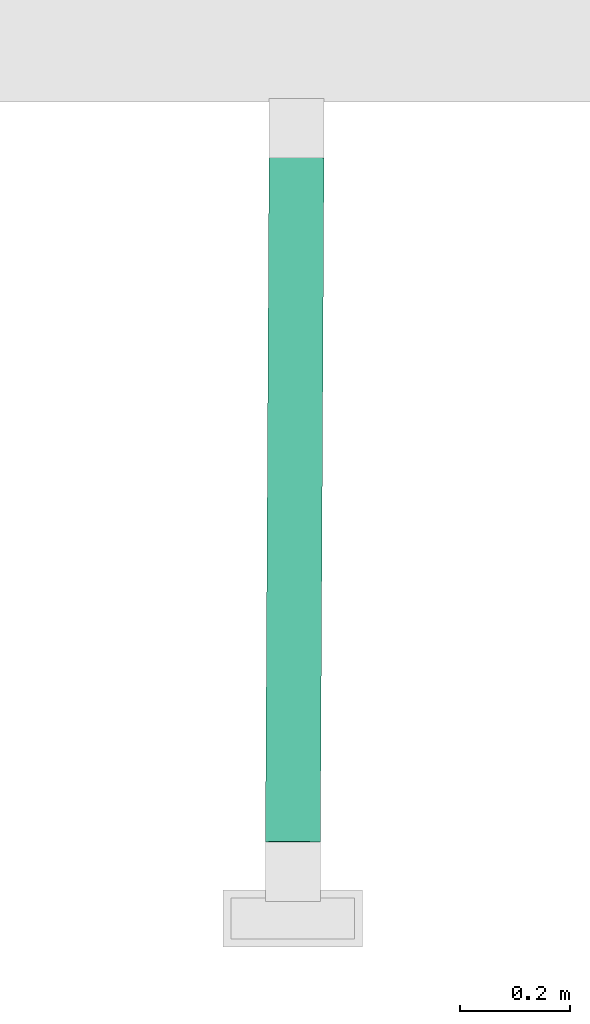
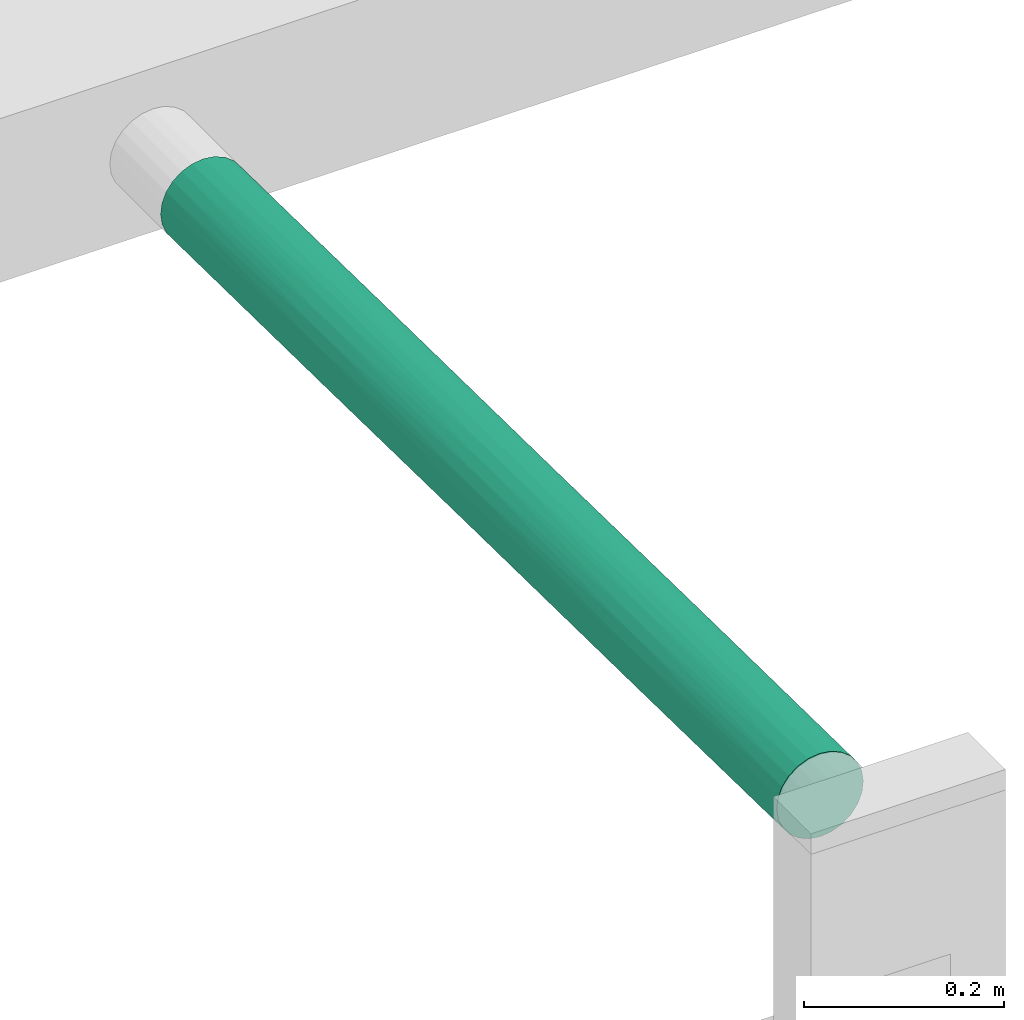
# One storey, part 49 of 60: 1 flow segment.
"""IFC2X3 building model written with IfcOpenShell, lengths in millimetres."""

from ifc_helpers import new_model, entity, si_unit, converted_unit, derived_unit, direction, frame, origin, place, context, subcontext, project, spatial, faceted_brep, type_object, element, save


model = new_model("IFC2X3")

# Units and contexts
model_context = context("Model", 3, precision=0.01, world=origin(), true_north=direction((6.123233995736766e-17, 1.0)))
body_context = subcontext(model_context, "Body", "Model", "MODEL_VIEW")
ifc_project = project(units=[si_unit("LENGTHUNIT", "METRE", prefix="MILLI"), converted_unit("PLANEANGLEUNIT", "DEGREE", entity("IfcPlaneAngleMeasure", 0.017453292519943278), si_unit("PLANEANGLEUNIT", "RADIAN"), dimensions=[0, 0, 0, 0, 0, 0, 0]), si_unit("AREAUNIT", "SQUARE_METRE"), derived_unit("THERMALTRANSMITTANCEUNIT", [(si_unit("MASSUNIT", "GRAM", prefix="KILO"), 1), (si_unit("THERMODYNAMICTEMPERATUREUNIT", "KELVIN"), -1), (si_unit("TIMEUNIT", "SECOND"), -3)])], contexts=[model_context])

# Site, building, storey
site_placement = place(None, origin())
site = spatial("IfcSite", under=ifc_project, at=site_placement, Name="Default", CompositionType="ELEMENT")
building_placement = place(site_placement, origin())
building = spatial("IfcBuilding", under=site, at=building_placement, Name="Praça Pedro II, 1301 - Centro (Sul), Teresina - PI, 64001-100", CompositionType="ELEMENT")
storey_placement = place(building_placement, frame((0.0, 0.0, 6040.0)))
storey = spatial("IfcBuildingStorey", under=building, at=storey_placement, Name="2PAV", CompositionType="ELEMENT", Elevation=6040.0)

# Flow segment
duct_segment_type = type_object("IfcDuctSegmentType", Name="Duto flexível redondo:Flexível - Redondo", PredefinedType="FLEXIBLESEGMENT")
flow_segment_placement = place(storey_placement, frame((34296.376495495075, -70120.2754949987, 2598.4195085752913)))
element("IfcFlowSegment", 1, at=flow_segment_placement, inside=storey, type_object=duct_segment_type, Name="Duto flexível redondo:Flexível - Redondo", ObjectType="Duto flexível redondo:Flexível - Redondo", context=body_context, shape_type="Brep", body=[
    faceted_brep([(1.5952722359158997, 3.101648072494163, 81.87457487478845), (3.2972968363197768, 2.7780224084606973, 68.93744817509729), (8.29070120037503, 2.458470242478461, 56.88196528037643), (16.23519307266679, 2.1647685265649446, 46.52968742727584), (26.589368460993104, 1.9169325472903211, 38.5861052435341), (38.64760742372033, 1.7318519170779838, 33.59256072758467), (51.58816090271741, 1.6221395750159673, 31.889355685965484), (64.52915156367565, 1.5952722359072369, 33.59256072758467), (76.58867227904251, 1.6530808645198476, 38.5861052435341), (86.94488664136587, 1.7916258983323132, 46.52968742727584), (94.89203575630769, 2.001465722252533, 56.88196528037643), (99.88853454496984, 2.268300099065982, 68.93744817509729), (101.59387987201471, 2.573944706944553, 81.87457487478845), (99.89185527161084, 2.8975703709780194, 94.81170157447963), (94.89845090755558, 3.217122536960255, 106.8671844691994), (86.95395903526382, 3.510824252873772, 117.21946232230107), (76.59978364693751, 3.7586602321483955, 125.16304450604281), (64.54154468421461, 3.9437408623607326, 130.15658902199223), (51.6009912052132, 4.053453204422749, 131.85979406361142), (38.660000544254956, 4.08032054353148, 130.15658902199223), (26.600479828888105, 4.022511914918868, 125.16304450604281), (16.24426546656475, 3.883966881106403, 117.21946232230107), (8.297116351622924, 3.6741270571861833, 106.86718446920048), (3.30061756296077, 3.407292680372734, 94.81170157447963), (13.566838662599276, 313.70545487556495, 43.8719805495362), (7.04207033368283, 314.01473093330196, 55.17253850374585), (11.57726638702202, 625.2552231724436, 41.734923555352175), (43.54986214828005, 278.11720752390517, 26.076471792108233), (53.572206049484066, 377.59425784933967, 22.745336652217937), (52.890681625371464, 248.44690361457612, 25.886329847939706), (46.83642733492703, 900.9139604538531, 10.929430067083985), (56.85877123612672, 1000.3910107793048, 7.598294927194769), (56.17724681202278, 871.2436565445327, 10.739288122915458), (54.8747260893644, 624.4188925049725, 16.742313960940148), (6.583862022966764, 625.5747753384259, 53.79040645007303), (3.963019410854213, 279.28876474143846, 65.65724097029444), (19.521758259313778, 624.9615214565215, 31.382645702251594), (3.579318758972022, 379.0740271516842, 72.73054949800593), (7.249584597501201, 902.0855176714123, 50.5101992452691), (4.881837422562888, 625.8984010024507, 66.72753314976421), (6.865883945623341, 1001.8707800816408, 57.583507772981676), (8.168402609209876, 1248.6951539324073, 51.580491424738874), (9.870427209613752, 1248.3715282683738, 38.6433647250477), (22.795121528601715, 313.4323497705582, 34.64511340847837), (34.09802665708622, 313.2140243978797, 28.120733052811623), (29.875933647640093, 624.7136854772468, 23.439063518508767), (41.93417261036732, 624.5286048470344, 18.445519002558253), (45.22073779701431, 1247.325357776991, 3.298477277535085), (58.16129127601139, 1247.215645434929, 1.5952722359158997), (72.36583703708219, 313.0120808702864, 28.120733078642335), (62.91325845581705, 347.96808700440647, 24.37519053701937), (67.81571675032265, 624.3920251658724, 18.445519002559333), (103.17509973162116, 625.0650530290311, 53.79040645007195), (102.14112142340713, 278.770658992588, 65.65724157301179), (99.4287371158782, 313.5271940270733, 55.17253877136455), (66.19982364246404, 970.764839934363, 9.228148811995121), (79.8752374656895, 624.4498337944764, 23.43906351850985), (83.67041680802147, 313.11110463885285, 34.645113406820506), (92.90106804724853, 313.28680018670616, 43.87198055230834), (90.23145182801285, 624.5883788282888, 31.382645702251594), (103.57792643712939, 378.54633175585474, 72.73054930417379), (102.89639849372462, 249.39831062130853, 75.8715587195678), (105.42768661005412, 901.5674119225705, 50.51019984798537), (106.86449162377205, 1001.3430846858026, 57.58350757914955), (106.18296368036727, 872.1950635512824, 60.72451699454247), (104.8804450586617, 625.3706976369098, 66.72753314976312), (98.17860094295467, 624.7982186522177, 41.734923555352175), (106.46166491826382, 1247.861805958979, 38.6433647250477), (108.16701024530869, 1248.1674505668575, 51.580491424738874), (99.43364705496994, 314.45761744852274, 93.42956926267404), (102.51269800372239, 349.1835902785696, 82.94486646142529), (103.17842045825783, 625.6943233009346, 79.66465984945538), (67.82810987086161, 626.7404937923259, 115.00954729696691), (62.556715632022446, 280.40402326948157, 124.22691750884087), (72.37769067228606, 315.2583216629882, 120.48137494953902), (105.79926319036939, 971.9803432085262, 67.79782473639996), (98.18501609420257, 626.0138754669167, 91.72014274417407), (92.90887863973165, 314.76689018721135, 104.73012747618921), (83.68059577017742, 315.0399954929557, 113.95699462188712), (90.24052422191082, 626.3075771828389, 102.07242059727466), (53.58503777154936, 380.025840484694, 122.7157684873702), (52.90350982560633, 250.87781886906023, 125.85677791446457), (65.84328081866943, 903.2007761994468, 109.07987578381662), (56.871602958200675, 1002.8225934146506, 107.56872676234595), (56.19007501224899, 873.6745717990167, 110.70973618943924), (54.88755639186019, 626.8502061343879, 116.7127523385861), (79.8863488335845, 626.5554131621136, 110.01600278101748), (71.11467505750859, 1249.5372467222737, 99.86250557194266), (58.174121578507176, 1249.6469590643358, 101.56571061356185), (34.109880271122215, 315.4602649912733, 120.48137494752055), (43.93159838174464, 350.4553732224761, 122.52563622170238), (41.946565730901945, 626.8770734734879, 115.00954729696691), (6.5871827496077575, 626.2040456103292, 79.66465984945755), (3.9654563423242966, 279.75057151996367, 84.64614773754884), (7.046980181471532, 314.9451517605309, 93.42956925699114), (47.21816356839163, 973.2521261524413, 107.37859449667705), (29.887045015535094, 626.8192648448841, 110.0160027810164), (22.80530048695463, 315.36124095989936, 113.95699462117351), (13.574649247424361, 315.1855454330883, 104.73012747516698), (19.53083065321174, 626.6807198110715, 102.07242059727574), (7.252021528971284, 902.5473244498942, 69.4991060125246), (11.583681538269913, 626.4708799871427, 91.72014274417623), (9.873747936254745, 1249.0007985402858, 64.51761812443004), (14.8702467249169, 1249.2676329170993, 76.5731010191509), (22.81739583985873, 1249.4774727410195, 86.92537887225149), (33.17361020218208, 1249.6160177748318, 94.86896105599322), (45.233130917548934, 1249.6738264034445, 99.86250557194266), (83.17291402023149, 1249.3521660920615, 94.86896105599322), (93.5270894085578, 1249.1043301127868, 86.92537887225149), (101.47158128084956, 1248.8106283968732, 76.57310101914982), (106.46498564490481, 1248.491076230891, 64.51761812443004), (101.46516612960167, 1247.5949715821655, 26.587881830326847), (93.51801701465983, 1247.3851317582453, 16.23560397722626), (83.16180265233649, 1247.246586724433, 8.292021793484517), (71.10228193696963, 1247.1887780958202, 3.298477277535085), (33.16249883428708, 1247.5104384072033, 8.292021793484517), (22.808323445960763, 1247.758274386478, 16.23560397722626), (14.863831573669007, 1248.0519761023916, 26.587881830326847), (16.853403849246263, 936.5022078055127, 28.724938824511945), (10.328635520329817, 936.8114838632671, 40.025496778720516), (26.081686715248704, 936.229102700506, 19.498071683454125), (37.38459184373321, 936.0107773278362, 12.973691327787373), (75.65240222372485, 935.8088338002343, 12.973691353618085), (102.7153023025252, 936.3239469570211, 40.02549704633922), (86.95698199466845, 935.9078575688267, 19.498071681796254), (96.18763323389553, 936.0835531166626, 28.724938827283), (102.72021224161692, 937.2543703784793, 78.28252753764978), (75.66425585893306, 938.0550745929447, 105.33433322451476), (96.19544382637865, 937.5636431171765, 89.58308575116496), (86.9671609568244, 937.8367484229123, 98.80995289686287), (37.3964454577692, 938.2570179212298, 105.3343332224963), (10.33354536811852, 937.7419046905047, 78.28252753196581), (26.091865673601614, 938.1579938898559, 98.80995289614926), (16.86121443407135, 937.9822983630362, 89.58308575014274)], [[[0, 1, 2, 3, 4, 5, 6, 7, 8, 9, 10, 11, 12, 13, 14, 15, 16, 17, 18, 19, 20, 21, 22, 23]], [[24, 25, 26]], [[27, 28, 29, 6]], [[30, 31, 32, 33]], [[34, 26, 25]], [[34, 25, 35]], [[25, 1, 35]], [[25, 24, 2]], [[36, 24, 26]], [[35, 0, 37]], [[38, 39, 40]], [[24, 3, 2]], [[37, 39, 34]], [[40, 41, 42]], [[43, 24, 36]], [[1, 25, 2]], [[44, 45, 46]], [[0, 35, 1]], [[45, 43, 36]], [[6, 5, 27]], [[43, 4, 3]], [[44, 43, 45]], [[27, 5, 44]], [[44, 4, 43]], [[24, 43, 3]], [[4, 44, 5]], [[46, 33, 28]], [[47, 48, 31]], [[34, 35, 37]], [[46, 27, 44]], [[46, 28, 27]], [[49, 50, 51]], [[52, 53, 54]], [[50, 29, 28, 33]], [[55, 32, 31, 48]], [[49, 51, 56]], [[7, 6, 29]], [[51, 33, 32]], [[50, 33, 51]], [[7, 49, 8]], [[7, 29, 50]], [[57, 9, 8]], [[57, 49, 56]], [[58, 57, 59]], [[53, 60, 61, 12]], [[62, 63, 64, 65]], [[54, 66, 52]], [[52, 65, 60]], [[67, 68, 63]], [[53, 11, 54]], [[12, 11, 53]], [[58, 10, 9]], [[54, 58, 66]], [[52, 60, 53]], [[54, 10, 58]], [[57, 58, 9]], [[59, 57, 56]], [[10, 54, 11]], [[66, 58, 59]], [[7, 50, 49]], [[49, 57, 8]], [[69, 70, 71]], [[72, 73, 74]], [[70, 61, 60, 65]], [[75, 64, 63, 68]], [[69, 71, 76]], [[13, 12, 61]], [[71, 65, 64]], [[70, 65, 71]], [[13, 69, 14]], [[13, 61, 70]], [[77, 15, 14]], [[77, 69, 76]], [[78, 77, 79]], [[73, 80, 81, 18]], [[82, 83, 84, 85]], [[74, 86, 72]], [[72, 85, 80]], [[87, 88, 83]], [[73, 17, 74]], [[18, 17, 73]], [[78, 16, 15]], [[74, 78, 86]], [[72, 80, 73]], [[74, 16, 78]], [[77, 78, 15]], [[79, 77, 76]], [[16, 74, 17]], [[86, 78, 79]], [[13, 70, 69]], [[69, 77, 14]], [[89, 90, 91]], [[92, 93, 94]], [[90, 81, 80, 85]], [[95, 84, 83, 88]], [[89, 91, 96]], [[19, 18, 81]], [[91, 85, 84]], [[90, 85, 91]], [[19, 89, 20]], [[19, 81, 90]], [[97, 21, 20]], [[97, 89, 96]], [[98, 97, 99]], [[0, 93, 37]], [[39, 100, 40]], [[94, 101, 92]], [[92, 39, 37]], [[102, 41, 40]], [[93, 23, 94]], [[0, 23, 93]], [[98, 22, 21]], [[94, 98, 101]], [[92, 37, 93]], [[94, 22, 98]], [[97, 98, 21]], [[99, 97, 96]], [[22, 94, 23]], [[101, 98, 99]], [[19, 90, 89]], [[89, 97, 20]], [[102, 103, 104, 105, 106, 88, 87, 107, 108, 109, 110, 68, 67, 111, 112, 113, 114, 48, 47, 115, 116, 117, 42, 41]], [[118, 119, 117]], [[42, 117, 119]], [[42, 119, 38]], [[119, 34, 38]], [[119, 118, 26]], [[116, 118, 117]], [[118, 36, 26]], [[120, 118, 116]], [[34, 119, 26]], [[121, 115, 47]], [[39, 38, 34]], [[115, 120, 116]], [[33, 46, 30]], [[120, 45, 36]], [[121, 120, 115]], [[30, 46, 121]], [[121, 45, 120]], [[118, 120, 36]], [[45, 121, 46]], [[42, 38, 40]], [[47, 30, 121]], [[47, 31, 30]], [[122, 55, 114]], [[67, 62, 123]], [[122, 114, 113]], [[55, 48, 114]], [[51, 122, 56]], [[51, 32, 55]], [[124, 59, 56]], [[124, 122, 113]], [[125, 124, 112]], [[123, 111, 67]], [[62, 52, 123]], [[65, 52, 62]], [[125, 66, 59]], [[123, 125, 111]], [[67, 63, 62]], [[123, 66, 125]], [[124, 125, 59]], [[112, 124, 113]], [[66, 123, 52]], [[111, 125, 112]], [[51, 55, 122]], [[122, 124, 56]], [[126, 75, 110]], [[87, 82, 127]], [[126, 110, 109]], [[75, 68, 110]], [[71, 126, 76]], [[71, 64, 75]], [[128, 79, 76]], [[128, 126, 109]], [[129, 128, 108]], [[127, 107, 87]], [[82, 72, 127]], [[85, 72, 82]], [[129, 86, 79]], [[127, 129, 107]], [[87, 83, 82]], [[127, 86, 129]], [[128, 129, 79]], [[108, 128, 109]], [[86, 127, 72]], [[107, 129, 108]], [[71, 75, 126]], [[126, 128, 76]], [[130, 95, 106]], [[102, 100, 131]], [[130, 106, 105]], [[95, 88, 106]], [[91, 130, 96]], [[91, 84, 95]], [[132, 99, 96]], [[132, 130, 105]], [[133, 132, 104]], [[131, 103, 102]], [[100, 92, 131]], [[39, 92, 100]], [[133, 101, 99]], [[131, 133, 103]], [[102, 40, 100]], [[131, 101, 133]], [[132, 133, 99]], [[104, 132, 105]], [[101, 131, 92]], [[103, 133, 104]], [[91, 95, 130]], [[130, 132, 96]]]),
])

save(model, "model.ifc")
